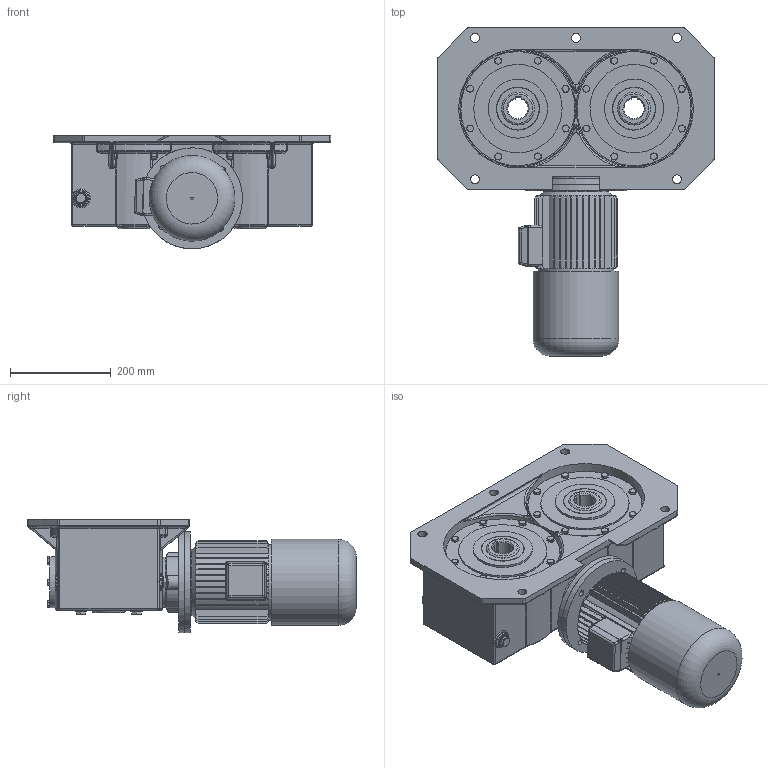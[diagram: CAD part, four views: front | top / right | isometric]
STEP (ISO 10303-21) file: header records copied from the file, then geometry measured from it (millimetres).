
FILE_DESCRIPTION((''),'2;1');
FILE_NAME('Y:\Archivi Inventor\Prog_07\int_230\Figurini\MRV2U_230 x sito\MRV2U_230_80_B5_B.stp','2013-02-14T16:39:05',('tech3'),(''),'Autodesk Inventor 2013','Autodesk Inventor 2013','');
FILE_SCHEMA(('AUTOMOTIVE_DESIGN { 1 0 10303 214 1 1 1 1 }'));
Length unit declared in the file: millimetre
Products named in the file (12): Fig_MRV2U 230; Figurino_Carcassa 230_2U; 0723002; UNI 5739 M8 x 25; 0723009; Figurino_Corona 230_2U; UNI ISO 6194-1 (4) Tipo4 65 x  85 x  10; Tappo3_8 GAS; Guarnizione 3_8 GAS; DIN EN ISO 4762 M8 x 20; 0105006; motori B5 brake 80
Assembly tree (44 placements, depth 2):
  Fig_MRV2U 230
    Figurino_Carcassa 230_2U
    0723002  x2
    UNI 5739 M8 x 25  x20
    0723009
    Figurino_Corona 230_2U  x2
    UNI ISO 6194-1 (4) Tipo4 65 x  85 x  10  x4
    Tappo3_8 GAS  x4
    Guarnizione 3_8 GAS  x4
    DIN EN ISO 4762 M8 x 20  x4
    0105006
    motori B5 brake 80
Bounding box: 550 x 650 x 225 mm (x, y, z)
Volume: 21307011 mm3; surface area: 1696558.6 mm2
Topology: 45 solids, 45 shells, 1806 faces, 4139 edges, 2455 vertices
Faces by surface type: plane 784, cylinder 483, cone 197, bspline 138, torus 120, sphere 84
Full cylindrical faces by diameter (mm): 5 x1, 6.647 x24, 8 x24, 8.5 x8, 9 x16, 11.5 x4, 11.63 x20, 12 x4, 13 x4, 13.046 x4, 14.95 x4, 16.3 x4, 18 x5, 19 x1, 22 x8, 25 x4, 33 x3, 60 x1, 65 x4, 71 x4, 72 x4, 75 x1, 80 x4, 85 x8, 100 x3, 101 x1, 117 x2, 124 x1, 130 x3, 140 x1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
Entity records: 42101 total; most frequent: CARTESIAN_POINT 13310, DIRECTION 5982, ORIENTED_EDGE 5424, EDGE_CURVE 2712, AXIS2_PLACEMENT_3D 2380, VERTEX_POINT 1699, EDGE_LOOP 1540, FACE_OUTER_BOUND 1251
